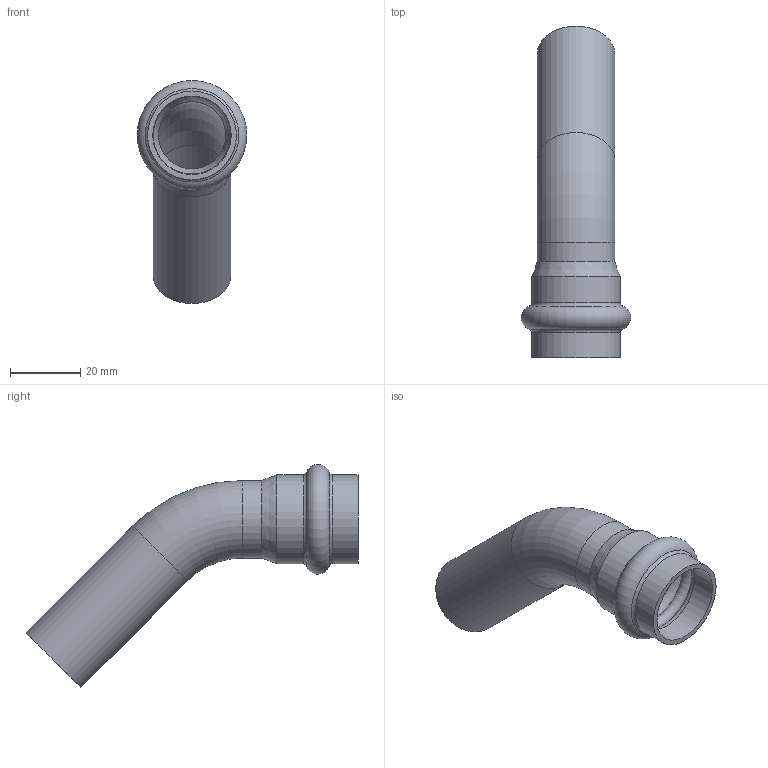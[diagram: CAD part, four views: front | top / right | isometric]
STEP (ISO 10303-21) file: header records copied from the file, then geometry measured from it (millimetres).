
FILE_DESCRIPTION(('STEP AP203'), '1');
FILE_NAME('覆.302661.011.000 捘 - VTi.958.I.002222', '', ('UNSPECIFIED'), ('UNSPECIFIED'), 'C3D Converter', 'C3D Toolkit', '');
FILE_SCHEMA(('CONFIG_CONTROL_DESIGN'));
Length unit declared in the file: millimetre
Products named in the file (1): ВР.302661.011.000 СБ
Bounding box: 31.09 x 94.23 x 63.27 mm (x, y, z)
Volume: 11000.8 mm3; surface area: 14560.4 mm2
Topology: 1 solids, 1 shells, 21 faces, 44 edges, 25 vertices
Faces by surface type: torus 9, cylinder 8, plane 2, cone 2
Full cylindrical faces by diameter (mm): 19.1 x2, 22 x2, 22.3 x2, 25.2 x2
Entity records: 508 total; most frequent: DIRECTION 94, CARTESIAN_POINT 72, ORIENTED_EDGE 50, AXIS2_PLACEMENT_3D 47, EDGE_LOOP 42, FACE_OUTER_BOUND 30, EDGE_CURVE 25, VERTEX_POINT 25
